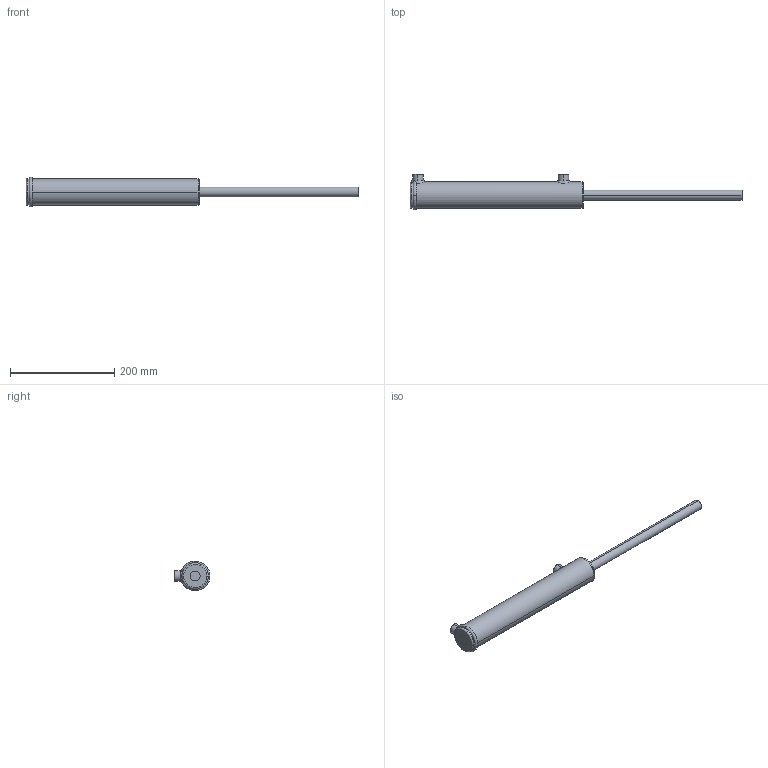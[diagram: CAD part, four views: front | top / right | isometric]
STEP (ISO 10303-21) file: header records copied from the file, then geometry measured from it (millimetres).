
FILE_DESCRIPTION (( 'STEP AP203' ), '1' );
FILE_NAME ('BL150075x254 (10) extended.STEP', '2014-11-23T02:17:14', ( '' ), ( '' ), 'SwSTEP 2.0', 'SolidWorks 2014', '' );
FILE_SCHEMA (( 'CONFIG_CONTROL_DESIGN' ));
Length unit declared in the file: millimetre
Products named in the file (1): BL150075x254 (10) extended
Bounding box: 636 x 68.8 x 56.8 mm (x, y, z)
Volume: 668980.6 mm3; surface area: 100135.8 mm2
Topology: 2 solids, 2 shells, 64 faces, 146 edges, 90 vertices
Faces by surface type: cylinder 20, torus 16, plane 12, bspline 8, cone 8
Entity records: 4329 total; most frequent: CARTESIAN_POINT 2883, DIRECTION 288, ORIENTED_EDGE 284, EDGE_CURVE 142, AXIS2_PLACEMENT_3D 130, VERTEX_POINT 90, CIRCLE 73, EDGE_LOOP 72
